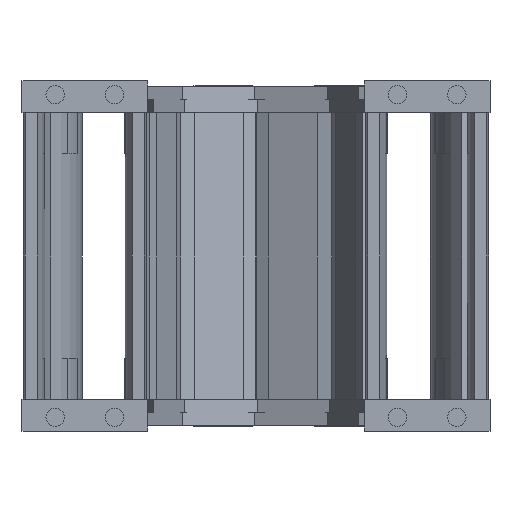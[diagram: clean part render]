
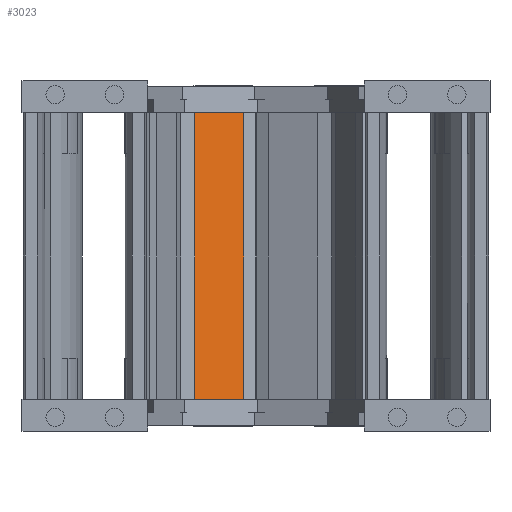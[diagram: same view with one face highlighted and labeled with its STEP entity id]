
A CAD part, left-side view. The second image highlights one B-rep face of the part: STEP entity #3023.
In plain terms, the highlighted planar face has unit normal (-0.925, -0.381, 0) as drawn and (0, 1, 0) by its records, which use the part's own axes.
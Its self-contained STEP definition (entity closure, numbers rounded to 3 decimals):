
#2766=DIRECTION('',(1.,0.,0.));
#2767=VECTOR('',#2766,23.);
#2768=CARTESIAN_POINT('',(-11.5,3.,112.9));
#2769=LINE('',#2768,#2767);
#2815=DIRECTION('',(0.,0.,-1.));
#2816=VECTOR('',#2815,125.4);
#2817=CARTESIAN_POINT('',(11.5,3.,112.9));
#2818=LINE('',#2817,#2816);
#2837=DIRECTION('',(-1.,0.,0.));
#2838=VECTOR('',#2837,23.);
#2839=CARTESIAN_POINT('',(11.5,3.,-12.5));
#2840=LINE('',#2839,#2838);
#2851=DIRECTION('',(0.,0.,-1.));
#2852=VECTOR('',#2851,125.4);
#2853=CARTESIAN_POINT('',(-11.5,3.,112.9));
#2854=LINE('',#2853,#2852);
#2878=CARTESIAN_POINT('',(11.5,3.,112.9));
#2879=VERTEX_POINT('',#2878);
#2882=CARTESIAN_POINT('',(-11.5,3.,112.9));
#2883=VERTEX_POINT('',#2882);
#2890=CARTESIAN_POINT('',(11.5,3.,-12.5));
#2891=VERTEX_POINT('',#2890);
#2892=CARTESIAN_POINT('',(-11.5,3.,-12.5));
#2893=VERTEX_POINT('',#2892);
#3011=CARTESIAN_POINT('',(15.5,3.,62.9));
#3012=DIRECTION('',(0.,1.,0.));
#3013=DIRECTION('',(-1.,0.,0.));
#3014=AXIS2_PLACEMENT_3D('',#3011,#3012,#3013);
#3015=PLANE('',#3014);
#3017=ORIENTED_EDGE('',*,*,#3016,.T.);
#3018=ORIENTED_EDGE('',*,*,#2995,.F.);
#3019=ORIENTED_EDGE('',*,*,#2975,.F.);
#3020=ORIENTED_EDGE('',*,*,#2907,.F.);
#3021=EDGE_LOOP('',(#3017,#3018,#3019,#3020));
#3022=FACE_OUTER_BOUND('',#3021,.F.);
#3023=ADVANCED_FACE('',(#3022),#3015,.T.);
#2907=EDGE_CURVE('',#2883,#2879,#2769,.T.);
#2975=EDGE_CURVE('',#2879,#2891,#2818,.T.);
#2995=EDGE_CURVE('',#2891,#2893,#2840,.T.);
#3016=EDGE_CURVE('',#2883,#2893,#2854,.T.);
